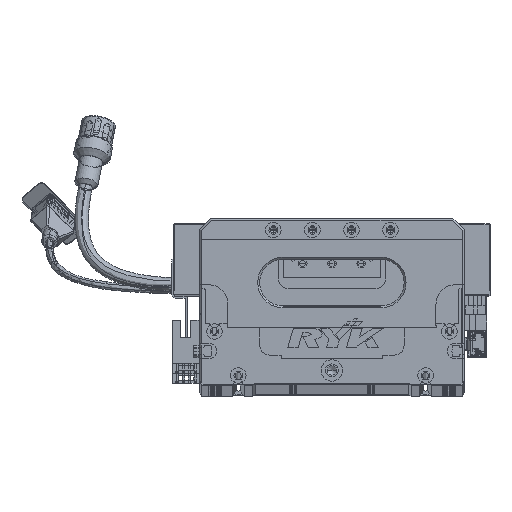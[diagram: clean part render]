
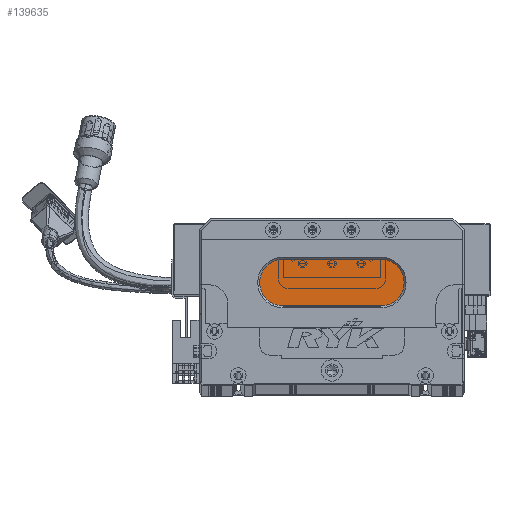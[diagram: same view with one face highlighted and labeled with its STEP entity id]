
A CAD part, top view. The second image highlights one B-rep face of the part: STEP entity #139635.
In plain terms, the highlighted planar face has unit normal (0, 0, 1) as drawn and (0, 0, -1) by its records, which use the part's own axes.
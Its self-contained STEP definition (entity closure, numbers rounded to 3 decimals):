
#1400 = CARTESIAN_POINT ( 'NONE',  ( 31., 52., 13. ) ) ;
#8583 = FACE_OUTER_BOUND ( 'NONE', #42741, .T. ) ;
#9416 = DIRECTION ( 'NONE',  ( 0., 0., -1. ) ) ;
#9601 = AXIS2_PLACEMENT_3D ( 'NONE', #134046, #30372, #146741 ) ;
#17323 = CARTESIAN_POINT ( 'NONE',  ( 93., 40., 13. ) ) ;
#20467 = CIRCLE ( 'NONE', #140829, 12. ) ;
#21610 = PLANE ( 'NONE',  #62413 ) ;
#28054 = CARTESIAN_POINT ( 'NONE',  ( 43., 52., 13. ) ) ;
#30372 = DIRECTION ( 'NONE',  ( 0., 0., -1. ) ) ;
#32918 = CARTESIAN_POINT ( 'NONE',  ( 93., 64., 13. ) ) ;
#39337 = ORIENTED_EDGE ( 'NONE', *, *, #141262, .T. ) ;
#41882 = ORIENTED_EDGE ( 'NONE', *, *, #78573, .T. ) ;
#42741 = EDGE_LOOP ( 'NONE', ( #39337, #104929, #134574, #41882, #93368 ) ) ;
#43769 = DIRECTION ( 'NONE',  ( 1., 0., 0. ) ) ;
#44566 = CARTESIAN_POINT ( 'NONE',  ( 93., 52., 13. ) ) ;
#54489 = VECTOR ( 'NONE', #112419, 1000. ) ;
#55852 = VERTEX_POINT ( 'NONE', #112351 ) ;
#58273 = CARTESIAN_POINT ( 'NONE',  ( 43., 64., 13. ) ) ;
#62413 = AXIS2_PLACEMENT_3D ( 'NONE', #44566, #9416, #125832 ) ;
#69018 = CIRCLE ( 'NONE', #9601, 12. ) ;
#77913 = CARTESIAN_POINT ( 'NONE',  ( 93., 64., 13. ) ) ;
#77999 = EDGE_CURVE ( 'NONE', #55852, #78964, #132634, .T. ) ;
#78573 = EDGE_CURVE ( 'NONE', #90268, #98343, #69018, .T. ) ;
#78964 = VERTEX_POINT ( 'NONE', #110127 ) ;
#85422 = CARTESIAN_POINT ( 'NONE',  ( 93., 52., 13. ) ) ;
#85918 = DIRECTION ( 'NONE',  ( 0., 0., -1. ) ) ;
#88302 = CIRCLE ( 'NONE', #111111, 12. ) ;
#90268 = VERTEX_POINT ( 'NONE', #1400 ) ;
#93290 = EDGE_CURVE ( 'NONE', #98343, #136930, #142719, .T. ) ;
#93368 = ORIENTED_EDGE ( 'NONE', *, *, #93290, .T. ) ;
#98343 = VERTEX_POINT ( 'NONE', #58273 ) ;
#102195 = EDGE_CURVE ( 'NONE', #78964, #90268, #20467, .T. ) ;
#104565 = VECTOR ( 'NONE', #43769, 1000. ) ;
#104929 = ORIENTED_EDGE ( 'NONE', *, *, #77999, .T. ) ;
#110127 = CARTESIAN_POINT ( 'NONE',  ( 43., 40., 13. ) ) ;
#111111 = AXIS2_PLACEMENT_3D ( 'NONE', #85422, #85918, #130564 ) ;
#112351 = CARTESIAN_POINT ( 'NONE',  ( 93., 40., 13. ) ) ;
#112419 = DIRECTION ( 'NONE',  ( -1., 0., 0. ) ) ;
#125832 = DIRECTION ( 'NONE',  ( -1., 0., 0. ) ) ;
#130564 = DIRECTION ( 'NONE',  ( -1., 0., 0. ) ) ;
#132634 = LINE ( 'NONE', #17323, #54489 ) ;
#134046 = CARTESIAN_POINT ( 'NONE',  ( 43., 52., 13. ) ) ;
#134203 = DIRECTION ( 'NONE',  ( -1., 0., 0. ) ) ;
#134574 = ORIENTED_EDGE ( 'NONE', *, *, #102195, .T. ) ;
#136930 = VERTEX_POINT ( 'NONE', #32918 ) ;
#139635 = ADVANCED_FACE ( 'NONE', ( #8583 ), #21610, .T. ) ;
#140829 = AXIS2_PLACEMENT_3D ( 'NONE', #28054, #145906, #134203 ) ;
#141262 = EDGE_CURVE ( 'NONE', #136930, #55852, #88302, .T. ) ;
#142719 = LINE ( 'NONE', #77913, #104565 ) ;
#145906 = DIRECTION ( 'NONE',  ( 0., 0., -1. ) ) ;
#146741 = DIRECTION ( 'NONE',  ( -1., 0., 0. ) ) ;
